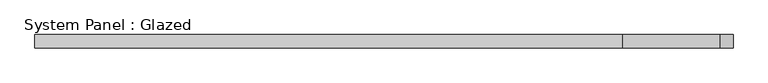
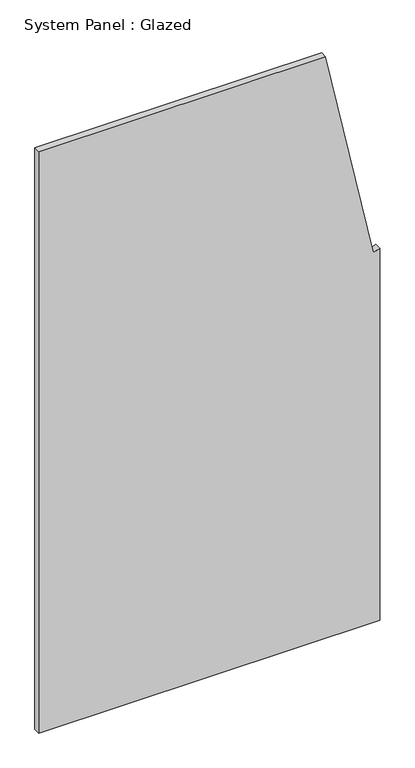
"""IFC4 building model written with IfcOpenShell, lengths in millimetres: plate geometry, System Panel : Glazed."""

from ifc_helpers import new_model, si_unit, frame, origin, place, context, project, spatial, polyline, outline, extrude, source, transform, mapped, element, save


def system_panel_glazed_d1c3b477(model_context):
    return source(origin(), model_context, "Body", "SweptSolid", [
        extrude(outline(polyline([(0.0, -651.6601177), (0.0, 651.6601177), (1503.6319805, 651.6601177), (1493.1763221, 627.7655453), (2350.0, 444.5416156), (2350.0, -651.6601177), (0.0, -651.6601177)])), frame((0.0, -49.5, 0.0), z_axis=(0.0, 1.0, 0.0), x_axis=(0.0, 0.0, 1.0)), (0.0, 0.0, 1.0), 25.0),
    ])


if __name__ == "__main__":
    model = new_model("IFC4")
    model_context = context("Model", 3, world=origin())
    ifc_project = project(units=[si_unit("LENGTHUNIT", "METRE", prefix="MILLI")], contexts=[model_context])
    site = spatial("IfcSite", under=ifc_project)
    building = spatial("IfcBuilding", under=site)
    placement = place(None, origin())
    system_panel_glazed_shape = system_panel_glazed_d1c3b477(model_context)
    element("IfcPlate", 1, ObjectType="System Panel : Glazed", at=placement, inside=building, context=model_context, shape_type="MappedRepresentation", body=[
        mapped(system_panel_glazed_shape, transform((0.0, 0.0, 0.0), x_axis=(1.0, 0.0, 0.0), y_axis=(0.0, 1.0, 0.0), z_axis=(0.0, 0.0, 1.0))),
    ])
    save(model, "model.ifc")
